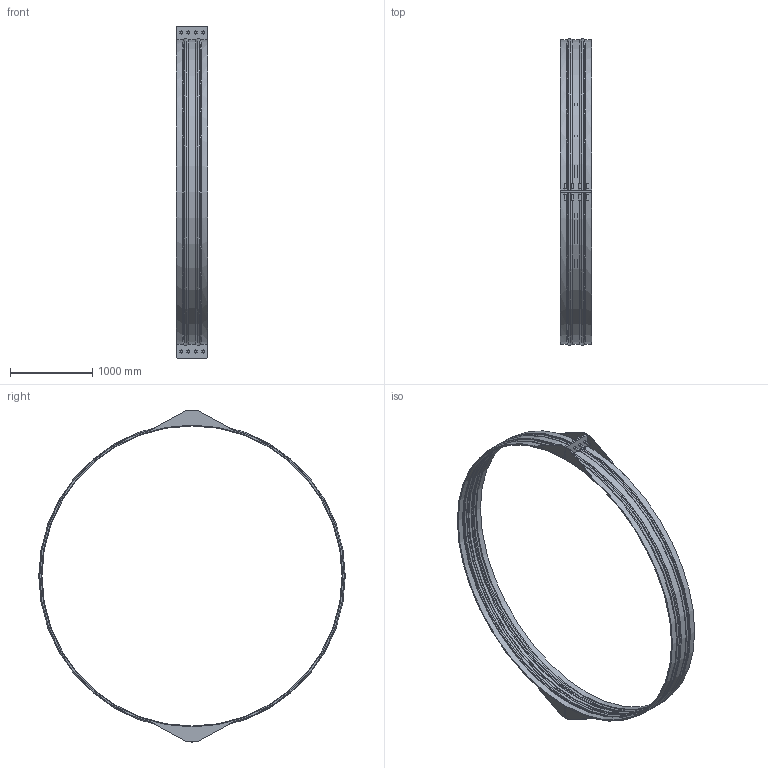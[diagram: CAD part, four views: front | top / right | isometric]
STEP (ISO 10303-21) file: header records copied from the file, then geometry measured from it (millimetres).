
FILE_DESCRIPTION(/* description */ ('VIC RESTRAINED COUPLING STYLE 233 (FLEX) (BRD)','CAx-IF Rec.Pracs.---Representation and Presentation of Product Manufacturing Information (PMI)---4.0---2014-10-13'),/* implementation_level */ '2;1');
FILE_NAME(/* name */ 'C:\Users\Vjadhav\Desktop\CAD for Inventor\Test for STEP\Vivek\Adsk_Inventor_Bolted Sleeve_iParts\STEP\Victaulic_VBSP_Coupling Flexible Restrained_Style 233 (BRD)\Victaulic_VBSP_Coupling Flexible Restrained_Style 233 (BRD)_100psi_144 (3600).stp',/* time_stamp */ '2020-09-24T12:32:23+05:00',/* author */ ('Vjadhav'),/* organization */ ('Victaulic'),/* preprocessor_version */ 'ST-DEVELOPER v17.2',/* originating_system */ 'Autodesk Inventor 2019',/* authorisation */ '');
FILE_SCHEMA (('AP242_MANAGED_MODEL_BASED_3D_ENGINEERING_MIM_LF { 1 0 10303 442 1 1 4 }'));
Length unit declared in the file: inch
Products named in the file (1): Style_233_Type_2_100psi-144.0
Bounding box: 381 x 3715.98 x 4025.9 mm (x, y, z)
Volume: 82027679.7 mm3; surface area: 10678283.2 mm2
Topology: 1 solids, 1 shells, 239 faces, 625 edges, 422 vertices
Faces by surface type: plane 166, cylinder 43, torus 18, cone 12
Full cylindrical faces by diameter (mm): 25.4 x16, 3638.55 x1, 3657.6 x2, 3663.95 x2
Entity records: 7896 total; most frequent: CARTESIAN_POINT 1496, DIRECTION 1259, ORIENTED_EDGE 1250, EDGE_CURVE 625, LINE 449, VECTOR 449, VERTEX_POINT 422, AXIS2_PLACEMENT_3D 405
